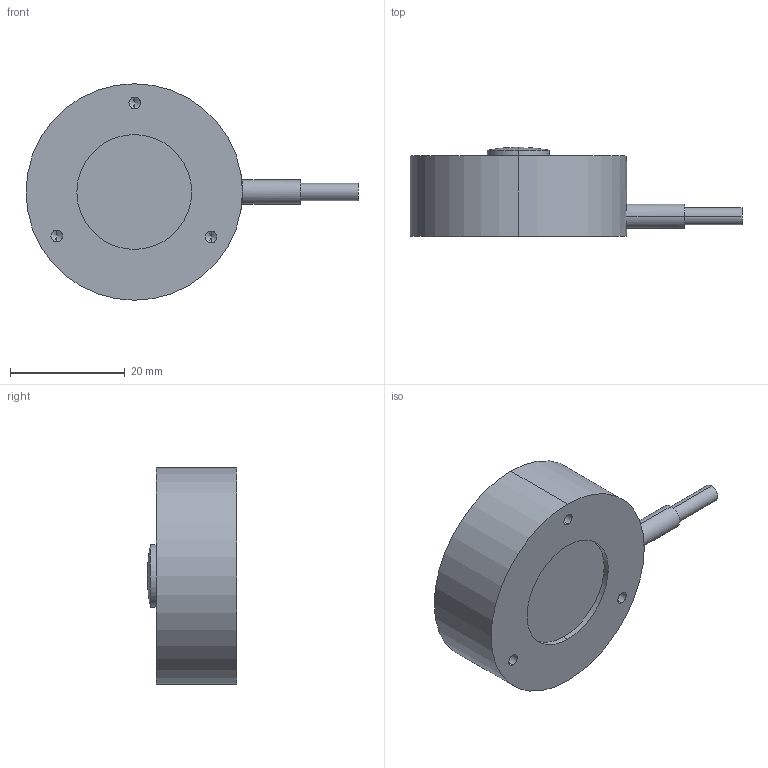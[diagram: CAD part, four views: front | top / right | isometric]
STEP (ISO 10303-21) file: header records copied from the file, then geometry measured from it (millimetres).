
FILE_DESCRIPTION (( 'STEP AP214' ), '1' );
FILE_NAME ('DYHW-116微型膜盒3-5T.STEP', '2019-12-14T10:22:03', ( '微软用户' ), ( '微软中国' ), 'SwSTEP 2.0', 'SolidWorks 2016', '' );
FILE_SCHEMA (( 'AUTOMOTIVE_DESIGN' ));
Length unit declared in the file: millimetre
Products named in the file (1): DYHW-116峚倰臚碟3-5T
Bounding box: 57.8 x 15.5 x 37.7 mm (x, y, z)
Volume: 15556 mm3; surface area: 4379.6 mm2
Topology: 1 solids, 1 shells, 29 faces, 64 edges, 36 vertices
Faces by surface type: cylinder 16, cone 6, plane 5, torus 2
Entity records: 922 total; most frequent: CARTESIAN_POINT 176, DIRECTION 146, ORIENTED_EDGE 112, AXIS2_PLACEMENT_3D 62, EDGE_CURVE 56, VERTEX_POINT 36, EDGE_LOOP 36, CIRCLE 32
